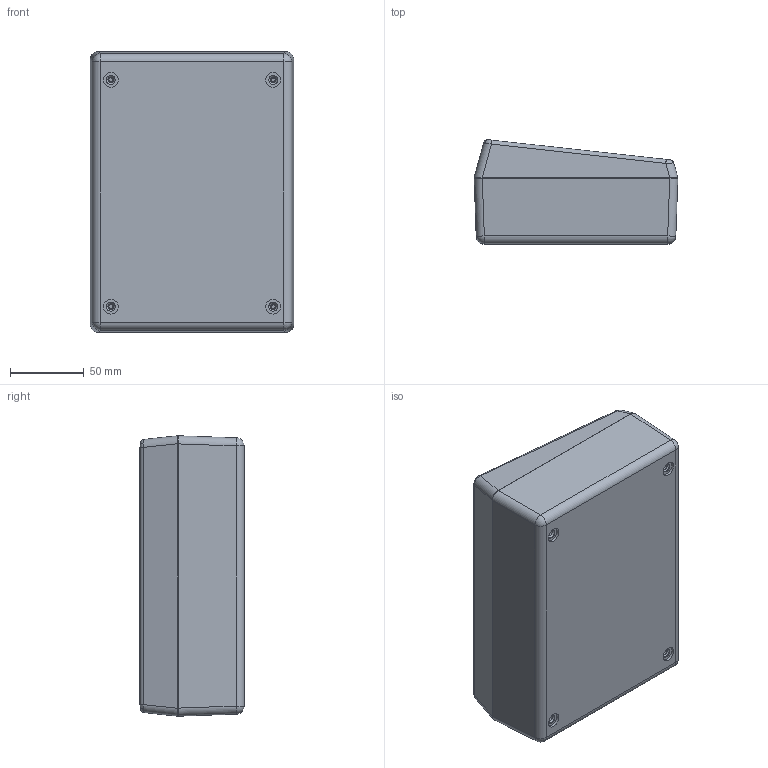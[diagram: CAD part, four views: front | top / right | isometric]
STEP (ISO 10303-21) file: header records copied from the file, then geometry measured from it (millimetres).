
FILE_DESCRIPTION (( 'STEP AP214' ), '1' );
FILE_NAME ('SEDS-007 Deep assembly.STEP', '2023-12-14T19:27:20', ( '' ), ( '' ), 'SwSTEP 2.0', 'SolidWorks 2016', '' );
FILE_SCHEMA (( 'AUTOMOTIVE_DESIGN' ));
Length unit declared in the file: millimetre
Products named in the file (4): SE Bottom deep; Threaded insert; SES Top; SEDS-007 Deep assembly
Assembly tree (6 placements, depth 2):
  SEDS-007 Deep assembly
    SE Bottom deep
    SES Top
    Threaded insert  x4
Bounding box: 138 x 70.49 x 190 mm (x, y, z)
Volume: 266567.6 mm3; surface area: 194663.3 mm2
Topology: 6 solids, 6 shells, 530 faces, 1353 edges, 871 vertices
Faces by surface type: plane 220, cylinder 218, cone 53, bspline 31, sphere 8
Entity records: 15657 total; most frequent: CARTESIAN_POINT 5066, ORIENTED_EDGE 2240, DIRECTION 2104, EDGE_CURVE 1120, AXIS2_PLACEMENT_3D 735, VERTEX_POINT 721, VECTOR 634, LINE 634
